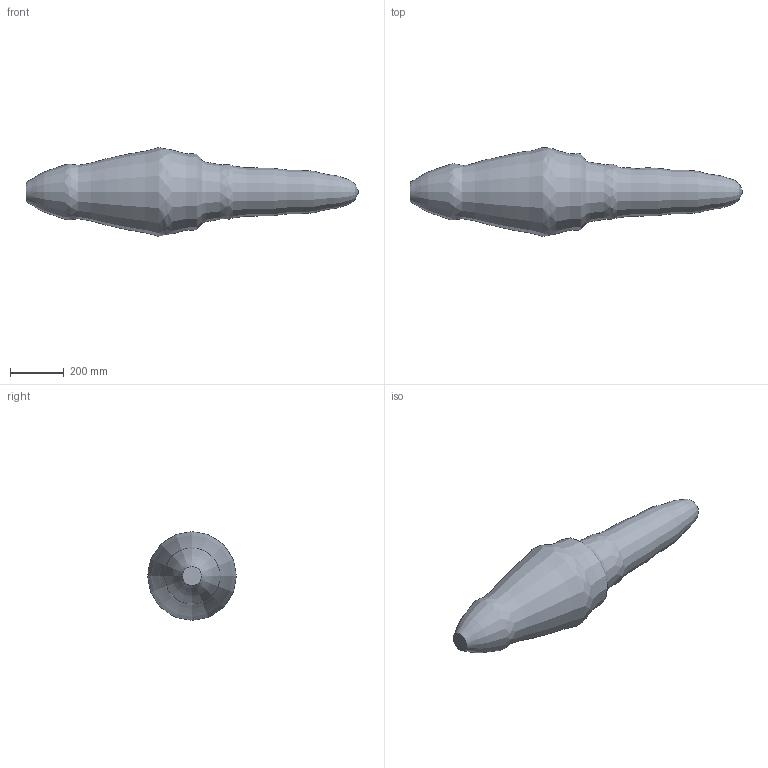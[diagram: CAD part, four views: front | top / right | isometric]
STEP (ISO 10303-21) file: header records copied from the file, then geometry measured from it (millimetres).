
FILE_DESCRIPTION((''),'2;1');
FILE_NAME('C:\Dokumente und Einstellungen\Kramp\Eigene Dateien\Microsonic Nacharbeit 2\restliche Änderungen\STP\Schallfeld Betriebstastw 700mm Platte.stp','2005-08-11T08:22:57',('Kramp'),(''),'Autodesk Inventor 7','Autodesk Inventor 7','');
FILE_SCHEMA(('AUTOMOTIVE_DESIGN { 1 0 10303 214 1 1 1 1 }'));
Length unit declared in the file: millimetre
Products named in the file (1): Schallfeld Betriebstastw 700mm Platte
Bounding box: 1230 x 328.28 x 328.12 mm (x, y, z)
Volume: 44390737.6 mm3; surface area: 829802.3 mm2
Topology: 1 solids, 1 shells, 3 faces, 3 edges, 2 vertices
Faces by surface type: plane 2, bspline 1
Entity records: 584 total; most frequent: CARTESIAN_POINT 517, DIRECTION 10, ORIENTED_EDGE 6, AXIS2_PLACEMENT_3D 5, EDGE_CURVE 3, EDGE_LOOP 3, FACE_OUTER_BOUND 3, ADVANCED_FACE 3
